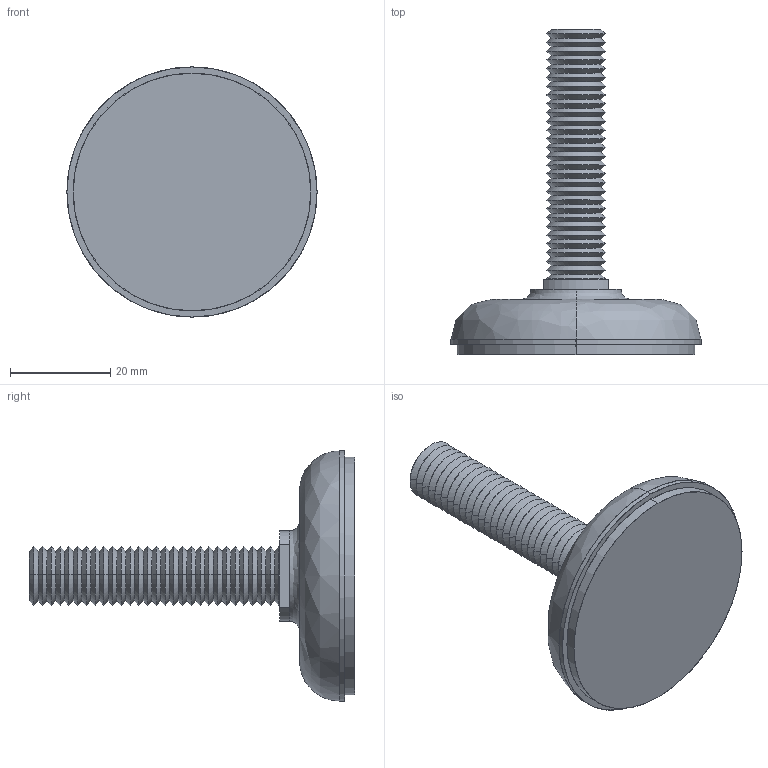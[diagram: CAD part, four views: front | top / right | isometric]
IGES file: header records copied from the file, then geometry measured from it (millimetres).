
Start section: SolidWorks IGES file using analytic representation for surfaces
Global section: file name: C:\Documents and Settings\IANO\Desktop\Temp File\Process pending\EXISTING\34780_v2\34780_v2_20170626_IGES\34780.W0120.igs; native system: SolidWorks 2009; preprocessor: SolidWorks 2009; author: IANO; date: 170626.122340; units: millimetre
Bounding box: 50 x 65 x 50 mm (x, y, z)
Surface area: 17967.4 mm2 (no closed solid volume)
Topology: 0 solids, 0 shells, 180 faces, 1634 edges, 1634 vertices
Faces by surface type: revolution 152, bspline 28
